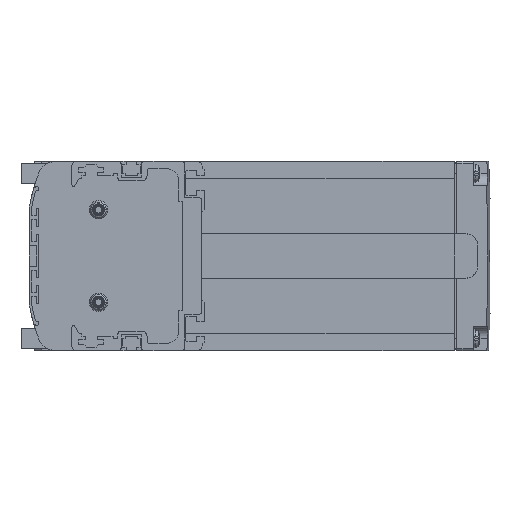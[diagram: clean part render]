
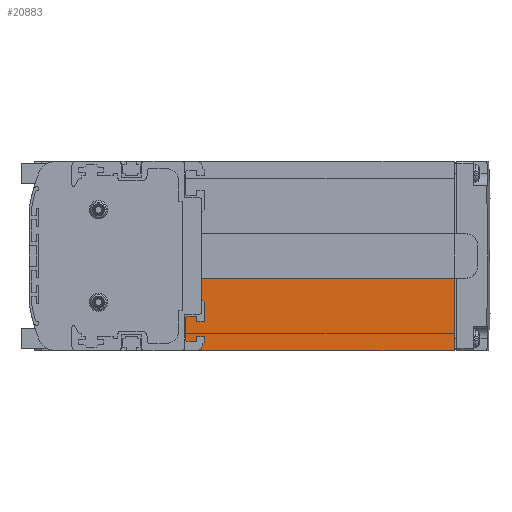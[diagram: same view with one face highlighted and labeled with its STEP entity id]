
A CAD part, left-side view. The second image highlights one B-rep face of the part: STEP entity #20883.
In plain terms, the highlighted planar face has unit normal (-1, 0, 0).
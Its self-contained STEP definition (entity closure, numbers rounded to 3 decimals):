
#291=DIRECTION('',(0.,0.,1.));
#292=VECTOR('',#291,29.9);
#293=CARTESIAN_POINT('',(3.,-103.,-39.));
#294=LINE('',#293,#292);
#537=DIRECTION('',(0.,1.,0.));
#538=VECTOR('',#537,112.);
#539=CARTESIAN_POINT('',(3.,-103.,-39.));
#540=LINE('',#539,#538);
#2832=DIRECTION('',(0.,0.,1.));
#2833=VECTOR('',#2832,13.9);
#2834=CARTESIAN_POINT('',(3.,1.,-23.));
#2835=LINE('',#2834,#2833);
#4502=DIRECTION('',(0.,1.,0.));
#4503=VECTOR('',#4502,104.);
#4504=CARTESIAN_POINT('',(3.,-103.,-9.1));
#4505=LINE('',#4504,#4503);
#12581=CARTESIAN_POINT('',(3.,2.,-23.));
#12582=DIRECTION('',(-1.,0.,0.));
#12583=DIRECTION('',(0.,0.,-1.));
#12584=AXIS2_PLACEMENT_3D('',#12581,#12582,#12583);
#12594=DIRECTION('',(0.,1.,0.));
#12595=VECTOR('',#12594,6.);
#12596=CARTESIAN_POINT('',(3.,2.,-24.));
#12597=LINE('',#12596,#12595);
#12598=DIRECTION('',(0.,0.,-1.));
#12599=VECTOR('',#12598,14.);
#12600=CARTESIAN_POINT('',(3.,8.,-24.));
#12601=LINE('',#12600,#12599);
#12606=CARTESIAN_POINT('',(3.,9.,-38.));
#12607=DIRECTION('',(-1.,0.,0.));
#12608=DIRECTION('',(0.,0.,-1.));
#12609=AXIS2_PLACEMENT_3D('',#12606,#12607,#12608);
#16539=CARTESIAN_POINT('',(3.,-103.,-39.));
#16540=VERTEX_POINT('',#16539);
#16541=CARTESIAN_POINT('',(3.,-103.,-9.1));
#16542=VERTEX_POINT('',#16541);
#19876=CARTESIAN_POINT('',(3.,1.,-23.));
#19877=CARTESIAN_POINT('',(3.,1.,-9.1));
#19878=VERTEX_POINT('',#19876);
#19879=VERTEX_POINT('',#19877);
#19924=CARTESIAN_POINT('',(3.,2.,-24.));
#19925=VERTEX_POINT('',#19924);
#19926=CARTESIAN_POINT('',(3.,8.,-24.));
#19927=VERTEX_POINT('',#19926);
#19928=CARTESIAN_POINT('',(3.,8.,-38.));
#19929=VERTEX_POINT('',#19928);
#19930=CARTESIAN_POINT('',(3.,9.,-39.));
#19931=VERTEX_POINT('',#19930);
#20861=CARTESIAN_POINT('',(3.,48.25,0.));
#20862=DIRECTION('',(1.,0.,0.));
#20863=DIRECTION('',(0.,1.,0.));
#20864=AXIS2_PLACEMENT_3D('',#20861,#20862,#20863);
#20865=PLANE('',#20864);
#20867=ORIENTED_EDGE('',*,*,#20866,.T.);
#20869=ORIENTED_EDGE('',*,*,#20868,.F.);
#20870=ORIENTED_EDGE('',*,*,#20417,.F.);
#20872=ORIENTED_EDGE('',*,*,#20871,.T.);
#20874=ORIENTED_EDGE('',*,*,#20873,.T.);
#20876=ORIENTED_EDGE('',*,*,#20875,.F.);
#20878=ORIENTED_EDGE('',*,*,#20877,.F.);
#20880=ORIENTED_EDGE('',*,*,#20879,.T.);
#20881=EDGE_LOOP('',(#20867,#20869,#20870,#20872,#20874,#20876,#20878,#20880));
#20882=FACE_OUTER_BOUND('',#20881,.F.);
#20883=ADVANCED_FACE('',(#20882),#20865,.F.);
#12585=CIRCLE('',#12584,1.);
#12610=CIRCLE('',#12609,1.);
#20417=EDGE_CURVE('',#16540,#16542,#294,.T.);
#20866=EDGE_CURVE('',#19878,#19879,#2835,.T.);
#20868=EDGE_CURVE('',#16542,#19879,#4505,.T.);
#20871=EDGE_CURVE('',#16540,#19931,#540,.T.);
#20873=EDGE_CURVE('',#19931,#19929,#12610,.T.);
#20875=EDGE_CURVE('',#19927,#19929,#12601,.T.);
#20877=EDGE_CURVE('',#19925,#19927,#12597,.T.);
#20879=EDGE_CURVE('',#19925,#19878,#12585,.T.);
